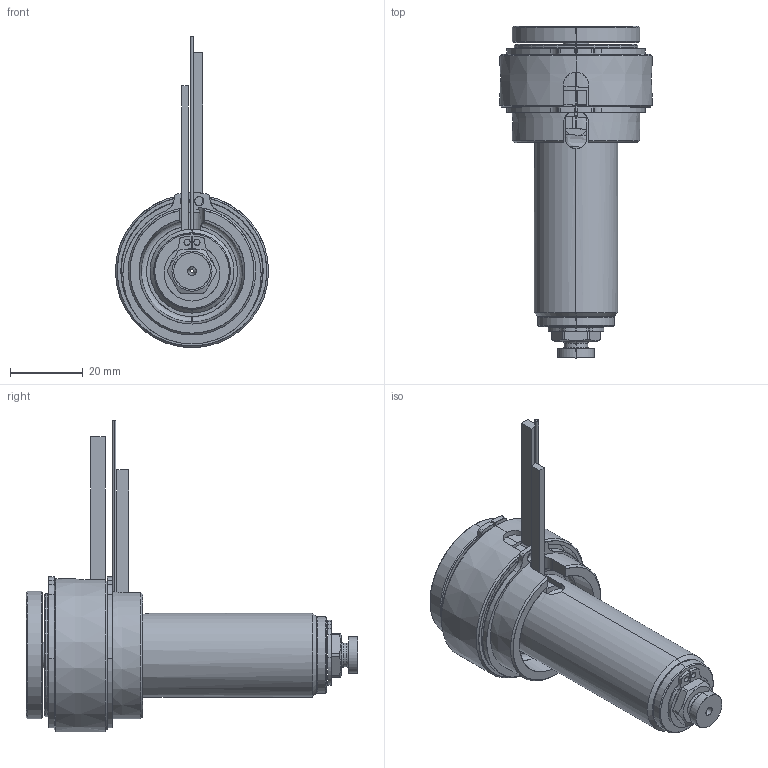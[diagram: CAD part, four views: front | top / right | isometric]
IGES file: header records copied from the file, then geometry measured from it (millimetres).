
Start section: SolidWorks IGES file using analytic representation for surfaces
Global section: file name: C:\Users\luca.EMPAD\Desktop\TEM\UGBE3501-S-A-5 [Ød-1.0 P-0 ØC-7.0].IGS; native system: SolidWorks 2012; preprocessor: SolidWorks 2012; author: luca; date: 120330.140334; units: millimetre
Bounding box: 42 x 91 x 85.4 mm (x, y, z)
Surface area: 28619.4 mm2 (no closed solid volume)
Topology: 0 solids, 0 shells, 198 faces, 3796 edges, 3796 vertices
Faces by surface type: revolution 128, bspline 70
